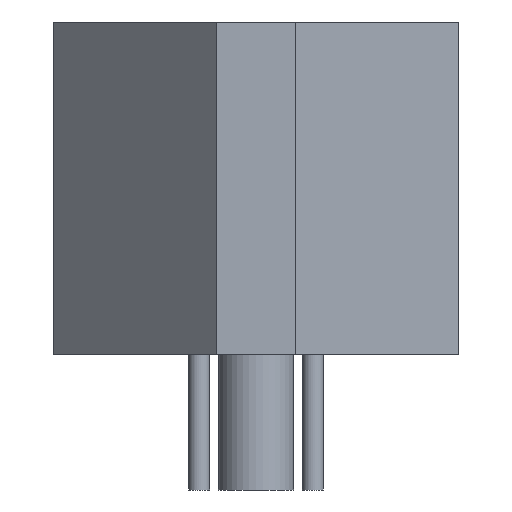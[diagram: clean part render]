
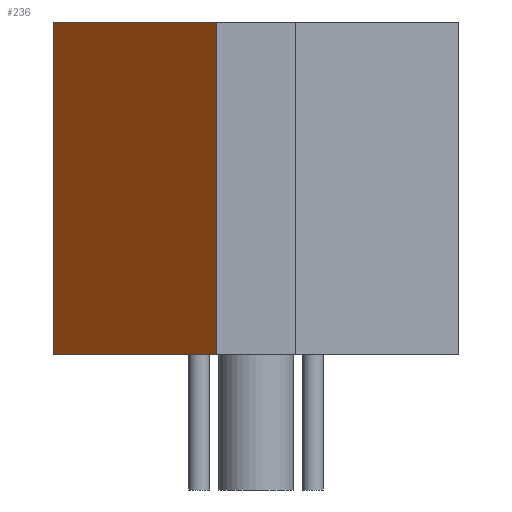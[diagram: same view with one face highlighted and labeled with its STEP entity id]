
A CAD part, left-side view. The second image highlights one B-rep face of the part: STEP entity #236.
In plain terms, the highlighted planar face has unit normal (-0.684, 0.729, 0).
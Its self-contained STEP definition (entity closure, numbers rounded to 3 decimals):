
#236 = ADVANCED_FACE('',(#237),#251,.F.);
#237 = FACE_BOUND('',#238,.F.);
#238 = EDGE_LOOP('',(#239,#274,#302,#330));
#239 = ORIENTED_EDGE('',*,*,#240,.T.);
#240 = EDGE_CURVE('',#241,#243,#245,.T.);
#241 = VERTEX_POINT('',#242);
#242 = CARTESIAN_POINT('',(-9.08,5.505,0.));
#243 = VERTEX_POINT('',#244);
#244 = CARTESIAN_POINT('',(-9.08,5.505,12.55));
#245 = SURFACE_CURVE('',#246,(#250,#262),.PCURVE_S1.);
#246 = LINE('',#247,#248);
#247 = CARTESIAN_POINT('',(-9.08,5.505,0.));
#248 = VECTOR('',#249,1.);
#249 = DIRECTION('',(0.,0.,1.));
#250 = PCURVE('',#251,#256);
#251 = PLANE('',#252);
#252 = AXIS2_PLACEMENT_3D('',#253,#254,#255);
#253 = CARTESIAN_POINT('',(-9.08,5.505,0.));
#254 = DIRECTION('',(0.684,-0.729,0.));
#255 = DIRECTION('',(-0.729,-0.684,0.));
#256 = DEFINITIONAL_REPRESENTATION('',(#257),#261);
#257 = LINE('',#258,#259);
#258 = CARTESIAN_POINT('',(0.,0.));
#259 = VECTOR('',#260,1.);
#260 = DIRECTION('',(0.,-1.));
#261 = ( GEOMETRIC_REPRESENTATION_CONTEXT(2) 
PARAMETRIC_REPRESENTATION_CONTEXT() REPRESENTATION_CONTEXT('2D SPACE',''
  ) );
#262 = PCURVE('',#263,#268);
#263 = PLANE('',#264);
#264 = AXIS2_PLACEMENT_3D('',#265,#266,#267);
#265 = CARTESIAN_POINT('',(60.92,5.505,0.));
#266 = DIRECTION('',(0.,-1.,0.));
#267 = DIRECTION('',(-1.,0.,0.));
#268 = DEFINITIONAL_REPRESENTATION('',(#269),#273);
#269 = LINE('',#270,#271);
#270 = CARTESIAN_POINT('',(70.,0.));
#271 = VECTOR('',#272,1.);
#272 = DIRECTION('',(0.,-1.));
#273 = ( GEOMETRIC_REPRESENTATION_CONTEXT(2) 
PARAMETRIC_REPRESENTATION_CONTEXT() REPRESENTATION_CONTEXT('2D SPACE',''
  ) );
#274 = ORIENTED_EDGE('',*,*,#275,.T.);
#275 = EDGE_CURVE('',#243,#276,#278,.T.);
#276 = VERTEX_POINT('',#277);
#277 = CARTESIAN_POINT('',(-15.63,-0.645,12.55));
#278 = SURFACE_CURVE('',#279,(#283,#290),.PCURVE_S1.);
#279 = LINE('',#280,#281);
#280 = CARTESIAN_POINT('',(-9.08,5.505,12.55));
#281 = VECTOR('',#282,1.);
#282 = DIRECTION('',(-0.729,-0.684,0.));
#283 = PCURVE('',#251,#284);
#284 = DEFINITIONAL_REPRESENTATION('',(#285),#289);
#285 = LINE('',#286,#287);
#286 = CARTESIAN_POINT('',(0.,-12.55));
#287 = VECTOR('',#288,1.);
#288 = DIRECTION('',(1.,0.));
#289 = ( GEOMETRIC_REPRESENTATION_CONTEXT(2) 
PARAMETRIC_REPRESENTATION_CONTEXT() REPRESENTATION_CONTEXT('2D SPACE',''
  ) );
#290 = PCURVE('',#291,#296);
#291 = PLANE('',#292);
#292 = AXIS2_PLACEMENT_3D('',#293,#294,#295);
#293 = CARTESIAN_POINT('',(25.92,-2.145,12.55));
#294 = DIRECTION('',(0.,0.,1.));
#295 = DIRECTION('',(1.,0.,0.));
#296 = DEFINITIONAL_REPRESENTATION('',(#297),#301);
#297 = LINE('',#298,#299);
#298 = CARTESIAN_POINT('',(-35.,7.65));
#299 = VECTOR('',#300,1.);
#300 = DIRECTION('',(-0.729,-0.684));
#301 = ( GEOMETRIC_REPRESENTATION_CONTEXT(2) 
PARAMETRIC_REPRESENTATION_CONTEXT() REPRESENTATION_CONTEXT('2D SPACE',''
  ) );
#302 = ORIENTED_EDGE('',*,*,#303,.F.);
#303 = EDGE_CURVE('',#304,#276,#306,.T.);
#304 = VERTEX_POINT('',#305);
#305 = CARTESIAN_POINT('',(-15.63,-0.645,0.));
#306 = SURFACE_CURVE('',#307,(#311,#318),.PCURVE_S1.);
#307 = LINE('',#308,#309);
#308 = CARTESIAN_POINT('',(-15.63,-0.645,0.));
#309 = VECTOR('',#310,1.);
#310 = DIRECTION('',(0.,0.,1.));
#311 = PCURVE('',#251,#312);
#312 = DEFINITIONAL_REPRESENTATION('',(#313),#317);
#313 = LINE('',#314,#315);
#314 = CARTESIAN_POINT('',(8.985,0.));
#315 = VECTOR('',#316,1.);
#316 = DIRECTION('',(0.,-1.));
#317 = ( GEOMETRIC_REPRESENTATION_CONTEXT(2) 
PARAMETRIC_REPRESENTATION_CONTEXT() REPRESENTATION_CONTEXT('2D SPACE',''
  ) );
#318 = PCURVE('',#319,#324);
#319 = PLANE('',#320);
#320 = AXIS2_PLACEMENT_3D('',#321,#322,#323);
#321 = CARTESIAN_POINT('',(-15.63,-0.645,0.));
#322 = DIRECTION('',(1.,0.,-0.));
#323 = DIRECTION('',(0.,-1.,0.));
#324 = DEFINITIONAL_REPRESENTATION('',(#325),#329);
#325 = LINE('',#326,#327);
#326 = CARTESIAN_POINT('',(0.,0.));
#327 = VECTOR('',#328,1.);
#328 = DIRECTION('',(0.,-1.));
#329 = ( GEOMETRIC_REPRESENTATION_CONTEXT(2) 
PARAMETRIC_REPRESENTATION_CONTEXT() REPRESENTATION_CONTEXT('2D SPACE',''
  ) );
#330 = ORIENTED_EDGE('',*,*,#331,.F.);
#331 = EDGE_CURVE('',#241,#304,#332,.T.);
#332 = SURFACE_CURVE('',#333,(#337,#344),.PCURVE_S1.);
#333 = LINE('',#334,#335);
#334 = CARTESIAN_POINT('',(-9.08,5.505,0.));
#335 = VECTOR('',#336,1.);
#336 = DIRECTION('',(-0.729,-0.684,0.));
#337 = PCURVE('',#251,#338);
#338 = DEFINITIONAL_REPRESENTATION('',(#339),#343);
#339 = LINE('',#340,#341);
#340 = CARTESIAN_POINT('',(0.,0.));
#341 = VECTOR('',#342,1.);
#342 = DIRECTION('',(1.,0.));
#343 = ( GEOMETRIC_REPRESENTATION_CONTEXT(2) 
PARAMETRIC_REPRESENTATION_CONTEXT() REPRESENTATION_CONTEXT('2D SPACE',''
  ) );
#344 = PCURVE('',#345,#350);
#345 = PLANE('',#346);
#346 = AXIS2_PLACEMENT_3D('',#347,#348,#349);
#347 = CARTESIAN_POINT('',(25.92,-2.145,0.));
#348 = DIRECTION('',(0.,0.,1.));
#349 = DIRECTION('',(1.,0.,0.));
#350 = DEFINITIONAL_REPRESENTATION('',(#351),#355);
#351 = LINE('',#352,#353);
#352 = CARTESIAN_POINT('',(-35.,7.65));
#353 = VECTOR('',#354,1.);
#354 = DIRECTION('',(-0.729,-0.684));
#355 = ( GEOMETRIC_REPRESENTATION_CONTEXT(2) 
PARAMETRIC_REPRESENTATION_CONTEXT() REPRESENTATION_CONTEXT('2D SPACE',''
  ) );
